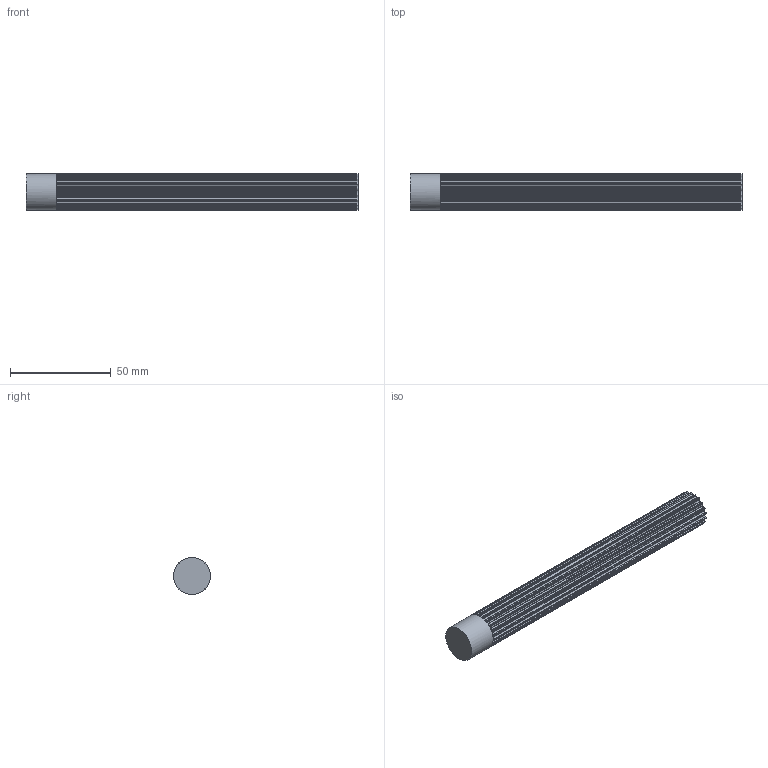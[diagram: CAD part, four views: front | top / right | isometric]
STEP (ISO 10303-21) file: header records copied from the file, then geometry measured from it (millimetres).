
FILE_DESCRIPTION( ( 'STEP AP214' ), '1' );
FILE_NAME( 'C:/Users/StangenbergN/Desktop/Steps Zahnriemenräder/K166_HTD-Zahnwellen/17092000.stp', '2019-06-06T09:33:51', ( '' ), ( '' ), ' ', 'PARTsolutions', ' ' );
FILE_SCHEMA( ( 'AUTOMOTIVE_DESIGN { 1 0 10303 214 1 1 1 1 }' ) );
Length unit declared in the file: millimetre
Products named in the file (1): _17092000
Bounding box: 165 x 18.34 x 18.34 mm (x, y, z)
Volume: 37308.8 mm3; surface area: 13145.5 mm2
Topology: 1 solids, 1 shells, 163 faces, 483 edges, 322 vertices
Faces by surface type: plane 82, cylinder 81
Full cylindrical faces by diameter (mm): 18.34 x1
Entity records: 6844 total; most frequent: DIRECTION 1010, CARTESIAN_POINT 966, ORIENTED_EDGE 962, EDGE_CURVE 481, AXIS2_PLACEMENT_3D 365, VERTEX_POINT 321, LINE 280, VECTOR 280
